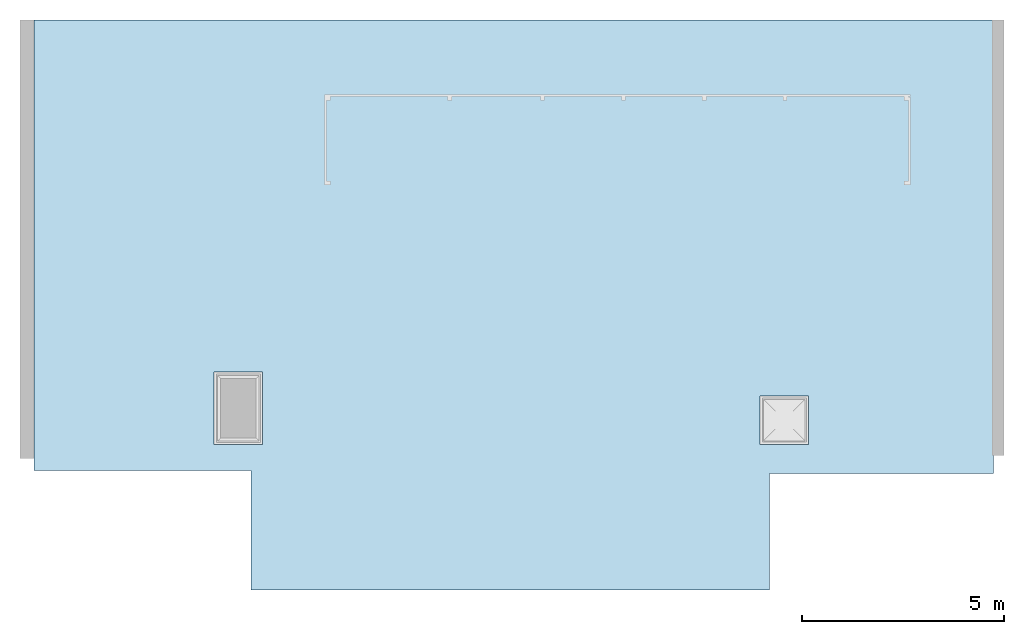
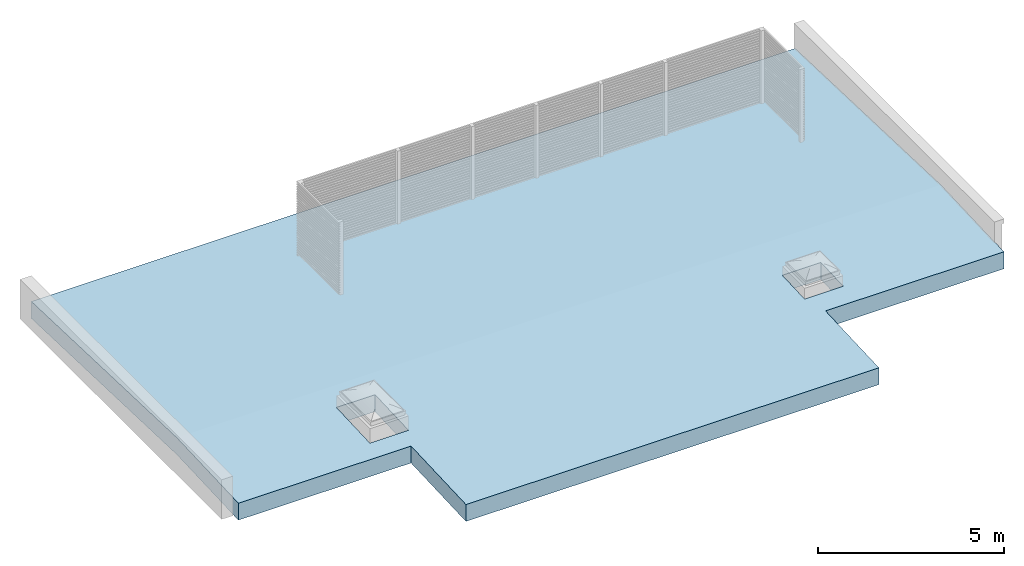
# One storey, part 2 of 4: 1 roof.
"""IFC2X3 building model written with IfcOpenShell, lengths in millimetres."""

from ifc_helpers import new_model, entity, si_unit, converted_unit, derived_unit, direction, frame, origin, place, context, subcontext, project, spatial, faceted_brep, material, layer, layer_set, element, save


model = new_model("IFC2X3")

# Units and contexts
model_context = context("Model", 3, precision=0.01, world=origin(), true_north=direction((6.12303176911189e-17, 1.0)))
body_context = subcontext(model_context, "Body", "Model", "MODEL_VIEW")
ifc_project = project(units=[si_unit("LENGTHUNIT", "METRE", prefix="MILLI"), si_unit("AREAUNIT", "SQUARE_METRE"), si_unit("VOLUMEUNIT", "CUBIC_METRE"), converted_unit("PLANEANGLEUNIT", "DEGREE", entity("IfcRatioMeasure", 0.0174532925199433), si_unit("PLANEANGLEUNIT", "RADIAN"), dimensions=[0, 0, 0, 0, 0, 0, 0]), si_unit("MASSUNIT", "GRAM", prefix="KILO"), derived_unit("MASSDENSITYUNIT", [(si_unit("MASSUNIT", "GRAM", prefix="KILO"), 1), (si_unit("LENGTHUNIT", "METRE"), -3)]), si_unit("TIMEUNIT", "SECOND"), si_unit("FREQUENCYUNIT", "HERTZ"), si_unit("THERMODYNAMICTEMPERATUREUNIT", "DEGREE_CELSIUS"), derived_unit("THERMALTRANSMITTANCEUNIT", [(si_unit("MASSUNIT", "GRAM", prefix="KILO"), 1), (si_unit("THERMODYNAMICTEMPERATUREUNIT", "KELVIN"), -1), (si_unit("TIMEUNIT", "SECOND"), -3)]), derived_unit("VOLUMETRICFLOWRATEUNIT", [(si_unit("LENGTHUNIT", "METRE"), 3), (si_unit("TIMEUNIT", "SECOND"), -1)]), si_unit("ELECTRICCURRENTUNIT", "AMPERE"), si_unit("ELECTRICVOLTAGEUNIT", "VOLT"), si_unit("POWERUNIT", "WATT"), si_unit("FORCEUNIT", "NEWTON", prefix="KILO"), si_unit("ILLUMINANCEUNIT", "LUX"), si_unit("LUMINOUSFLUXUNIT", "LUMEN"), si_unit("LUMINOUSINTENSITYUNIT", "CANDELA"), derived_unit("USERDEFINED", [(si_unit("MASSUNIT", "GRAM", prefix="KILO"), -1), (si_unit("LENGTHUNIT", "METRE"), -2), (si_unit("TIMEUNIT", "SECOND"), 3), (si_unit("LUMINOUSFLUXUNIT", "LUMEN"), 1)]), derived_unit("LINEARVELOCITYUNIT", [(si_unit("LENGTHUNIT", "METRE"), 1), (si_unit("TIMEUNIT", "SECOND"), -1)]), si_unit("PRESSUREUNIT", "PASCAL"), derived_unit("USERDEFINED", [(si_unit("LENGTHUNIT", "METRE"), -2), (si_unit("MASSUNIT", "GRAM", prefix="KILO"), 1), (si_unit("TIMEUNIT", "SECOND"), -2)]), derived_unit("LINEARFORCEUNIT", [(si_unit("MASSUNIT", "GRAM", prefix="KILO"), 1), (si_unit("LENGTHUNIT", "METRE"), 1), (si_unit("TIMEUNIT", "SECOND"), -2), (si_unit("LENGTHUNIT", "METRE"), -1)]), derived_unit("PLANARFORCEUNIT", [(si_unit("MASSUNIT", "GRAM", prefix="KILO"), 1), (si_unit("LENGTHUNIT", "METRE"), 1), (si_unit("TIMEUNIT", "SECOND"), -2), (si_unit("LENGTHUNIT", "METRE"), -2)])], contexts=[model_context])

# Site, building, storey
site_placement = place(None, origin())
site = spatial("IfcSite", under=ifc_project, at=site_placement, Name="Default", CompositionType="ELEMENT")
building_placement = place(site_placement, origin())
building = spatial("IfcBuilding", under=site, at=building_placement, Name="SMA ARH", CompositionType="ELEMENT")
storey_placement = place(building_placement, frame((0.0, 0.0, 9700.0)))
storey = spatial("IfcBuildingStorey", under=building, at=storey_placement, Name="Katus A", CompositionType="ELEMENT", Elevation=9699.9999999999)

# Roof
ifc_material_1 = material(Name="EST. Katusekate. Rullmaterjal. PVC")
ifc_layer_1 = layer(ifc_material_1, 5.0)
ifc_material_2 = material(Name="EST. Soojustus. Mineraalvill. Tuulutussoontega villaplaat. Default")
ifc_layer_2 = layer(ifc_material_2, 30.0)
ifc_material_3 = material(Name="EST. Soojustus. EPS. Default")
ifc_layer_3 = layer(ifc_material_3, 150.0)
ifc_layer_4 = layer(ifc_material_3, 150.0)
ifc_material_4 = material(Name="__Olemasolev konstruktsioon")
ifc_layer_5 = layer(ifc_material_4, 220.0)
ifc_layer_set = layer_set([ifc_layer_1, ifc_layer_2, ifc_layer_3, ifc_layer_4, ifc_layer_5], Name="Basic Roof:KL-00_R/B katus 500mm")
roof_placement = place(storey_placement, frame((6213.75419037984, 4007.56725033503, -100.0)))
element("IfcRoof", 1, at=roof_placement, inside=storey, material=ifc_layer_set, Name="Basic Roof:KL-00_R/B katus 500mm", ObjectType="Basic Roof:KL-00_R/B katus 500mm", ShapeType="NOTDEFINED", context=body_context, shape_type="Brep", body=[
    faceted_brep([(0.0, 14104.3476217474, 0.0), (2728.05958029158, 14104.3476217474, 0.0), (9028.05958029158, 14104.3476217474, 0.0), (14763.3673076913, 14104.3476217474, 0.0), (21084.5425240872, 14104.3476217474, 0.0), (23745.8590224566, 14104.3476217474, 0.0), (23745.8590224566, 6267.80273789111, 273.658177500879), (0.0, 6267.80273789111, 273.658177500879), (0.0, 14013.3476217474, 3.17779002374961), (17969.3363529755, 3600.20437598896, 157.188317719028), (19169.3363529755, 3600.20437598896, 157.188317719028), (19169.3363529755, 4800.20437598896, 209.581449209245), (17969.3363529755, 4800.20437598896, 209.581449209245), (5656.7904497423, 3595.20437598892, 156.970013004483), (5656.79044974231, 5395.20437598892, 235.559710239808), (4456.79044974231, 5395.20437598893, 235.559710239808), (4456.7904497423, 3595.20437598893, 156.970013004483), (5636.7904497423, 3595.20437598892, 156.970013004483), (23745.8590224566, 3165.20437598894, 138.195807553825), (23745.8590224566, 2874.20437598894, 125.490473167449), (18200.3363529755, 2874.20437598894, 125.490473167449), (18200.3363529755, 0.0, 0.0), (5616.7904497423, 0.0, 0.0), (5365.7904497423, 0.0, 0.0), (5365.7904497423, 2954.20437598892, 128.983348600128), (0.0, 2954.20437598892, 128.983348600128), (0.0, 3245.20437598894, 141.688682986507), (0.0, 3595.20437598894, 156.970013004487), (23745.8590224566, 14104.3476217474, 555.338297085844), (0.0, 14104.3476217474, 555.338297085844), (0.0, 6265.37923280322, 829.08110524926), (23745.8590224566, 6265.37923280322, 829.08110524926), (23745.8590224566, 2874.20437598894, 681.0192134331), (0.0, 2954.20437598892, 684.512088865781), (5365.7904497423, 2954.20437598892, 684.512088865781), (5365.7904497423, 0.0, 555.52874026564), (18200.3363529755, 0.0, 555.52874026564), (18200.3363529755, 2874.20437598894, 681.0192134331), (17969.3363529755, 3600.20437598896, 712.717057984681), (17969.3363529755, 4800.20437598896, 765.110189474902), (19169.3363529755, 4800.20437598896, 765.110189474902), (19169.3363529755, 3600.20437598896, 712.717057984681), (5656.7904497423, 3595.20437598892, 712.49875327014), (4456.7904497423, 3595.20437598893, 712.49875327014), (4456.79044974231, 5395.20437598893, 791.088450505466), (5656.79044974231, 5395.20437598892, 791.088450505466), (0.0, 14104.3476217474, 500.0), (5365.7904497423, 0.0, 549.590852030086), (23745.8590224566, 2874.20437598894, 646.815018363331), (0.0, 2954.20437598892, 646.815018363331)], [[[0, 1, 2, 3, 4, 5, 6, 7, 8]], [[9, 10, 11, 12], [13, 14, 15, 16, 17], [6, 18, 19, 20, 21, 22, 23, 24, 25, 26, 27, 7]], [[28, 29, 30, 31]], [[32, 31, 30, 33, 34, 35, 36, 37], [38, 39, 40, 41], [42, 43, 44, 45]], [[0, 46, 29, 28, 5, 4, 3, 2, 1]], [[21, 36, 35, 47, 23, 22]], [[28, 31, 32, 48, 19, 18, 6, 5]], [[32, 37, 20, 19, 48]], [[37, 36, 21, 20]], [[35, 34, 24, 23, 47]], [[34, 33, 49, 25, 24]], [[33, 30, 29, 46, 0, 8, 7, 27, 26, 25, 49]], [[39, 38, 9, 12]], [[40, 39, 12, 11]], [[41, 40, 11, 10]], [[38, 41, 10, 9]], [[43, 42, 13, 17, 16]], [[44, 43, 16, 15]], [[45, 44, 15, 14]], [[42, 45, 14, 13]]], outer=[[True], [False, False, True], [True], [True, False, False], [True], [True], [True], [True], [True], [True], [True], [True], [True], [True], [True], [True], [True], [True], [True], [True]]),
])

save(model, "model.ifc")
